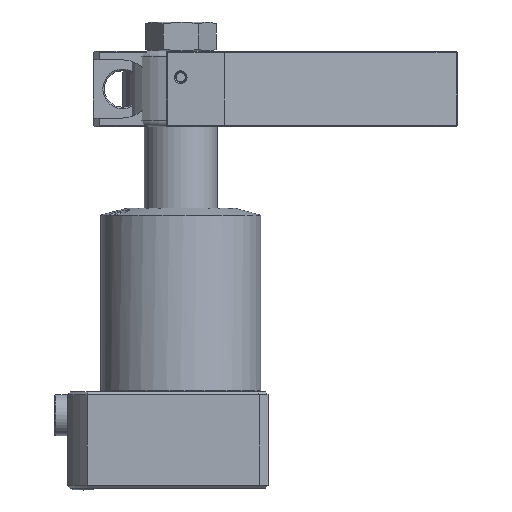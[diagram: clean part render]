
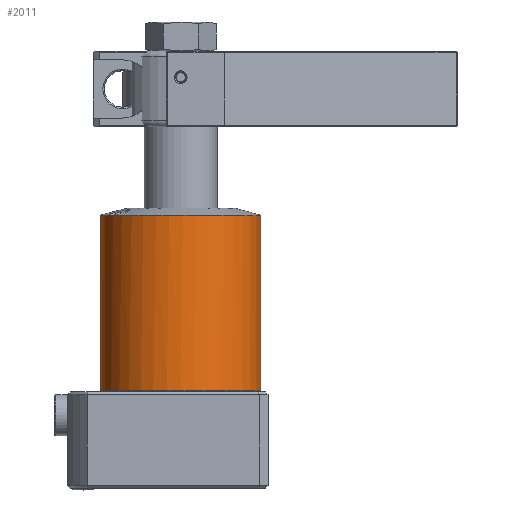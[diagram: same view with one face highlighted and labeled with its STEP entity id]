
A CAD part, top view. The second image highlights one B-rep face of the part: STEP entity #2011.
In plain terms, the highlighted cylindrical face has radius 27.5 mm (diameter 55 mm), a partial arc.
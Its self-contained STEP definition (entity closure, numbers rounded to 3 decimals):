
#12=CARTESIAN_POINT('',(0.,85.255,0.));
#13=DIRECTION('',(0.,-1.,0.));
#14=DIRECTION('',(1.,0.,0.));
#15=AXIS2_PLACEMENT_3D('',#12,#13,#14);
#17=CARTESIAN_POINT('',(0.,85.255,0.));
#18=DIRECTION('',(0.,-1.,0.));
#19=DIRECTION('',(-0.893,0.,0.451));
#20=AXIS2_PLACEMENT_3D('',#17,#18,#19);
#35=DIRECTION('',(0.,1.,0.));
#36=VECTOR('',#35,60.355);
#37=CARTESIAN_POINT('',(-27.5,24.9,0.));
#38=LINE('',#37,#36);
#39=DIRECTION('',(0.,-1.,0.));
#40=VECTOR('',#39,60.355);
#41=CARTESIAN_POINT('',(27.5,85.255,0.));
#42=LINE('',#41,#40);
#43=CARTESIAN_POINT('',(0.,24.9,0.));
#44=DIRECTION('',(0.,-1.,0.));
#45=DIRECTION('',(1.,0.,0.));
#46=AXIS2_PLACEMENT_3D('',#43,#44,#45);
#1449=DIRECTION('',(0.,-1.,0.));
#1450=VECTOR('',#1449,0.055);
#1451=CARTESIAN_POINT('',(-24.551,85.255,12.389));
#1452=LINE('',#1451,#1450);
#1479=DIRECTION('',(0.,-1.,0.));
#1480=VECTOR('',#1479,0.055);
#1481=CARTESIAN_POINT('',(-23.182,85.255,14.793));
#1482=LINE('',#1481,#1480);
#1488=CARTESIAN_POINT('',(0.,85.2,0.));
#1489=DIRECTION('',(0.,-1.,0.));
#1490=DIRECTION('',(-0.843,0.,0.538));
#1491=AXIS2_PLACEMENT_3D('',#1488,#1489,#1490);
#1877=CARTESIAN_POINT('',(-27.5,85.255,0.));
#1878=CARTESIAN_POINT('',(27.5,85.255,0.));
#1879=VERTEX_POINT('',#1877);
#1880=VERTEX_POINT('',#1878);
#1881=CARTESIAN_POINT('',(-23.182,85.255,14.793));
#1882=VERTEX_POINT('',#1881);
#1883=CARTESIAN_POINT('',(-24.551,85.255,12.389));
#1884=VERTEX_POINT('',#1883);
#1885=CARTESIAN_POINT('',(-27.5,24.9,0.));
#1886=CARTESIAN_POINT('',(27.5,24.9,0.));
#1887=VERTEX_POINT('',#1885);
#1888=VERTEX_POINT('',#1886);
#1941=CARTESIAN_POINT('',(-24.551,85.2,12.389));
#1942=VERTEX_POINT('',#1941);
#1943=CARTESIAN_POINT('',(-23.182,85.2,14.793));
#1944=VERTEX_POINT('',#1943);
#1990=CARTESIAN_POINT('',(0.,91.98,0.));
#1991=DIRECTION('',(0.,-1.,0.));
#1992=DIRECTION('',(-1.,0.,0.));
#1993=AXIS2_PLACEMENT_3D('',#1990,#1991,#1992);
#1994=CYLINDRICAL_SURFACE('',#1993,27.5);
#1996=ORIENTED_EDGE('',*,*,#1995,.T.);
#1997=ORIENTED_EDGE('',*,*,#1980,.F.);
#1999=ORIENTED_EDGE('',*,*,#1998,.T.);
#2001=ORIENTED_EDGE('',*,*,#2000,.F.);
#2003=ORIENTED_EDGE('',*,*,#2002,.F.);
#2004=ORIENTED_EDGE('',*,*,#1976,.F.);
#2006=ORIENTED_EDGE('',*,*,#2005,.T.);
#2008=ORIENTED_EDGE('',*,*,#2007,.T.);
#2009=EDGE_LOOP('',(#1996,#1997,#1999,#2001,#2003,#2004,#2006,#2008));
#2010=FACE_OUTER_BOUND('',#2009,.F.);
#2011=ADVANCED_FACE('',(#2010),#1994,.T.);
#16=CIRCLE('',#15,27.5);
#21=CIRCLE('',#20,27.5);
#47=CIRCLE('',#46,27.5);
#1492=CIRCLE('',#1491,27.5);
#1976=EDGE_CURVE('',#1880,#1882,#16,.T.);
#1980=EDGE_CURVE('',#1884,#1879,#21,.T.);
#1995=EDGE_CURVE('',#1887,#1879,#38,.T.);
#1998=EDGE_CURVE('',#1884,#1942,#1452,.T.);
#2000=EDGE_CURVE('',#1944,#1942,#1492,.T.);
#2002=EDGE_CURVE('',#1882,#1944,#1482,.T.);
#2005=EDGE_CURVE('',#1880,#1888,#42,.T.);
#2007=EDGE_CURVE('',#1888,#1887,#47,.T.);
